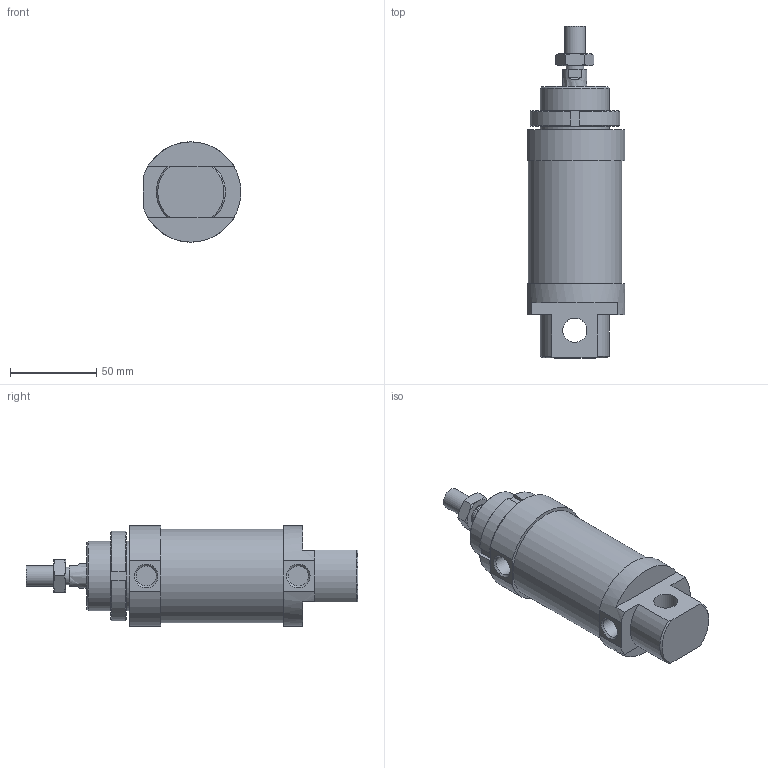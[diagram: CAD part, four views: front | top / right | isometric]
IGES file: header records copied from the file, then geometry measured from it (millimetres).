
Global section: file name: No Iges File Name specified; native system: AutoDesk Inventor R6.0; preprocessor: AutoDesk Inventor Iges Exporter R6.0; author: No Author specified; organization: No Organization specified; date: 20030402.144846; units: millimetre
Bounding box: 56.51 x 192 x 58 mm (x, y, z)
Surface area: 45445.3 mm2 (no closed solid volume)
Topology: 0 solids, 0 shells, 94 faces, 413 edges, 395 vertices
Faces by surface type: plane 44, revolution 39, bspline 11
